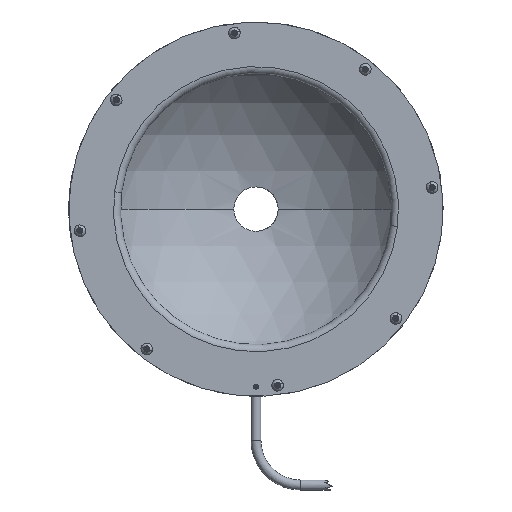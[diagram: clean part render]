
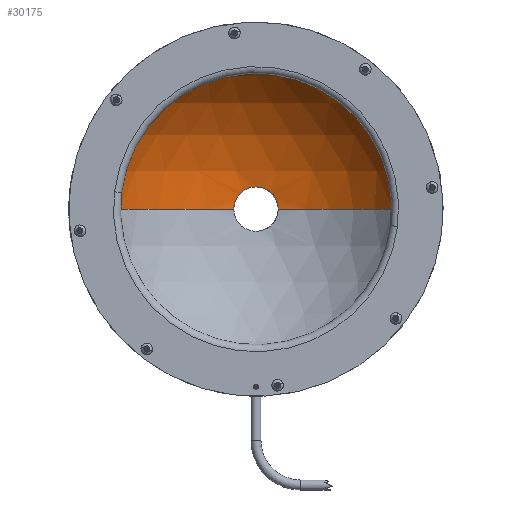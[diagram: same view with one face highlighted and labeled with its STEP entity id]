
A CAD part, front view. The second image highlights one B-rep face of the part: STEP entity #30175.
In plain terms, the highlighted spherical face has radius 97.79 mm.
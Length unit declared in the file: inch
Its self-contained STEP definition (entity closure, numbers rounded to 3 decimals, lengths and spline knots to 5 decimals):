
#374 = EDGE_CURVE ( 'NONE', #17581, #36086, #34230, .T. ) ;
#377 = CIRCLE ( 'NONE', #13225, 3.85 ) ;
#1639 = EDGE_CURVE ( 'NONE', #17581, #21972, #32627, .T. ) ;
#3396 = EDGE_CURVE ( 'NONE', #21972, #28196, #34883, .T. ) ;
#3520 = DIRECTION ( 'NONE',  ( 0., 0., 1. ) ) ;
#4936 = ORIENTED_EDGE ( 'NONE', *, *, #374, .F. ) ;
#5194 = EDGE_CURVE ( 'NONE', #10215, #28196, #377, .T. ) ;
#6155 = AXIS2_PLACEMENT_3D ( 'NONE', #36704, #27160, #11917 ) ;
#8502 = DIRECTION ( 'NONE',  ( 0., -1., 0. ) ) ;
#8772 = EDGE_LOOP ( 'NONE', ( #33651, #22669, #4936, #30465, #18917 ) ) ;
#9662 = CARTESIAN_POINT ( 'NONE',  ( -0.5, 3.81739, 0. ) ) ;
#10215 = VERTEX_POINT ( 'NONE', #9662 ) ;
#11494 = CARTESIAN_POINT ( 'NONE',  ( 0., 0.02977, 0. ) ) ;
#11917 = DIRECTION ( 'NONE',  ( -1., 0., 0. ) ) ;
#12607 = DIRECTION ( 'NONE',  ( 1., 0., 0. ) ) ;
#13225 = AXIS2_PLACEMENT_3D ( 'NONE', #25413, #3520, #12607 ) ;
#14450 = CIRCLE ( 'NONE', #15962, 0.5 ) ;
#14507 = AXIS2_PLACEMENT_3D ( 'NONE', #11494, #8502, #27261 ) ;
#15962 = AXIS2_PLACEMENT_3D ( 'NONE', #21477, #39807, #18232 ) ;
#16240 = SPHERICAL_SURFACE ( 'NONE', #16492, 3.85 ) ;
#16492 = AXIS2_PLACEMENT_3D ( 'NONE', #21033, #36649, #24024 ) ;
#17581 = VERTEX_POINT ( 'NONE', #37358 ) ;
#18232 = DIRECTION ( 'NONE',  ( 0., 0., -1. ) ) ;
#18917 = ORIENTED_EDGE ( 'NONE', *, *, #3396, .T. ) ;
#19071 = CARTESIAN_POINT ( 'NONE',  ( 3.84988, 0.02977, 0. ) ) ;
#19405 = DIRECTION ( 'NONE',  ( 0., -1., 0. ) ) ;
#21033 = CARTESIAN_POINT ( 'NONE',  ( 0., 0., 0. ) ) ;
#21477 = CARTESIAN_POINT ( 'NONE',  ( 0., 3.81739, 0. ) ) ;
#21972 = VERTEX_POINT ( 'NONE', #19071 ) ;
#22669 = ORIENTED_EDGE ( 'NONE', *, *, #37593, .F. ) ;
#24024 = DIRECTION ( 'NONE',  ( 1., 0., 0. ) ) ;
#25413 = CARTESIAN_POINT ( 'NONE',  ( 0., 0., 0. ) ) ;
#25504 = AXIS2_PLACEMENT_3D ( 'NONE', #34732, #19405, #28287 ) ;
#27160 = DIRECTION ( 'NONE',  ( 0., 0., -1. ) ) ;
#27261 = DIRECTION ( 'NONE',  ( 0., 0., -1. ) ) ;
#28196 = VERTEX_POINT ( 'NONE', #35785 ) ;
#28287 = DIRECTION ( 'NONE',  ( 0., 0., -1. ) ) ;
#30175 = ADVANCED_FACE ( 'NONE', ( #37428 ), #16240, .F. ) ;
#30465 = ORIENTED_EDGE ( 'NONE', *, *, #1639, .T. ) ;
#31765 = CARTESIAN_POINT ( 'NONE',  ( 0., 3.81739, 0.5 ) ) ;
#32627 = CIRCLE ( 'NONE', #6155, 3.85 ) ;
#33651 = ORIENTED_EDGE ( 'NONE', *, *, #5194, .F. ) ;
#34230 = CIRCLE ( 'NONE', #25504, 0.5 ) ;
#34732 = CARTESIAN_POINT ( 'NONE',  ( 0., 3.81739, 0. ) ) ;
#34883 = CIRCLE ( 'NONE', #14507, 3.84988 ) ;
#35785 = CARTESIAN_POINT ( 'NONE',  ( -3.84988, 0.02977, 0. ) ) ;
#36086 = VERTEX_POINT ( 'NONE', #31765 ) ;
#36649 = DIRECTION ( 'NONE',  ( 0., 0., 1. ) ) ;
#36704 = CARTESIAN_POINT ( 'NONE',  ( 0., 0., 0. ) ) ;
#37358 = CARTESIAN_POINT ( 'NONE',  ( 0.5, 3.81739, 0. ) ) ;
#37428 = FACE_OUTER_BOUND ( 'NONE', #8772, .T. ) ;
#37593 = EDGE_CURVE ( 'NONE', #36086, #10215, #14450, .T. ) ;
#39807 = DIRECTION ( 'NONE',  ( 0., -1., 0. ) ) ;
